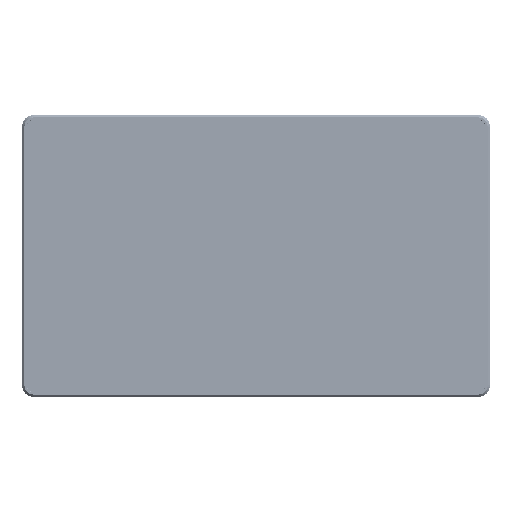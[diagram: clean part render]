
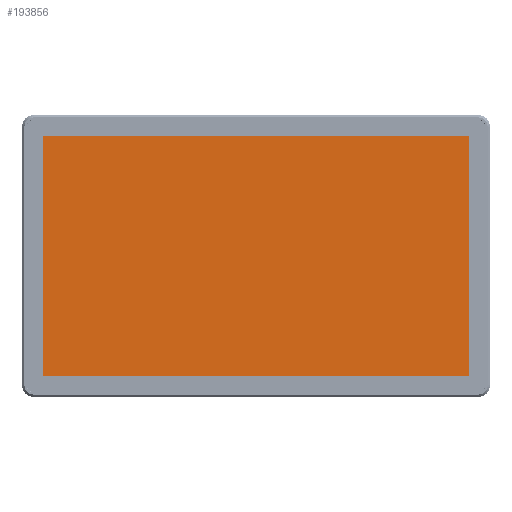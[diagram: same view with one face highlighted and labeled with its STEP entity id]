
A CAD part, top view. The second image highlights one B-rep face of the part: STEP entity #193856.
In plain terms, the highlighted planar face has unit normal (0, 0, 1).
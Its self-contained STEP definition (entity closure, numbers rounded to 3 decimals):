
#21427=PLANE('',#205818);
#29591=FACE_OUTER_BOUND('',#40013,.T.);
#40013=EDGE_LOOP('',(#168042,#168043,#168044,#168045));
#57199=LINE('',#317715,#75933);
#57200=LINE('',#317717,#75934);
#57201=LINE('',#317719,#75935);
#57202=LINE('',#317720,#75936);
#75933=VECTOR('',#241179,10.);
#75934=VECTOR('',#241180,10.);
#75935=VECTOR('',#241181,10.);
#75936=VECTOR('',#241182,10.);
#98175=VERTEX_POINT('',#317713);
#98176=VERTEX_POINT('',#317714);
#98177=VERTEX_POINT('',#317716);
#98178=VERTEX_POINT('',#317718);
#122443=EDGE_CURVE('',#98175,#98176,#57199,.T.);
#122444=EDGE_CURVE('',#98176,#98177,#57200,.T.);
#122445=EDGE_CURVE('',#98177,#98178,#57201,.T.);
#122446=EDGE_CURVE('',#98178,#98175,#57202,.T.);
#168042=ORIENTED_EDGE('',*,*,#122443,.T.);
#168043=ORIENTED_EDGE('',*,*,#122444,.T.);
#168044=ORIENTED_EDGE('',*,*,#122445,.T.);
#168045=ORIENTED_EDGE('',*,*,#122446,.T.);
#193856=ADVANCED_FACE('',(#29591),#21427,.T.);
#205818=AXIS2_PLACEMENT_3D('',#317712,#241177,#241178);
#241177=DIRECTION('center_axis',(0.,0.,
1.));
#241178=DIRECTION('ref_axis',(1.,0.,0.));
#241179=DIRECTION('',(0.,-1.,0.));
#241180=DIRECTION('',(1.,0.,0.));
#241181=DIRECTION('',(0.,1.,0.));
#241182=DIRECTION('',(-1.,0.,0.));
#317712=CARTESIAN_POINT('Origin',(0.,0.,
1.99));
#317713=CARTESIAN_POINT('',(-265.68,149.445,1.99));
#317714=CARTESIAN_POINT('',(-265.68,-149.445,1.99));
#317715=CARTESIAN_POINT('',(-265.68,-149.445,1.99));
#317716=CARTESIAN_POINT('',(265.68,-149.445,1.99));
#317717=CARTESIAN_POINT('',(265.68,-149.445,1.99));
#317718=CARTESIAN_POINT('',(265.68,149.445,1.99));
#317719=CARTESIAN_POINT('',(265.68,149.445,1.99));
#317720=CARTESIAN_POINT('',(-265.68,149.445,1.99));
